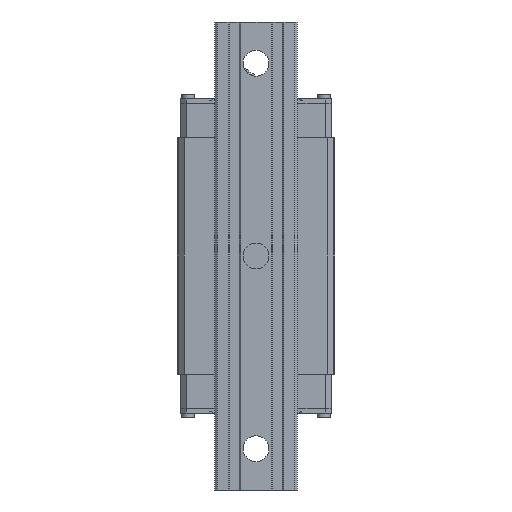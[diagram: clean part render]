
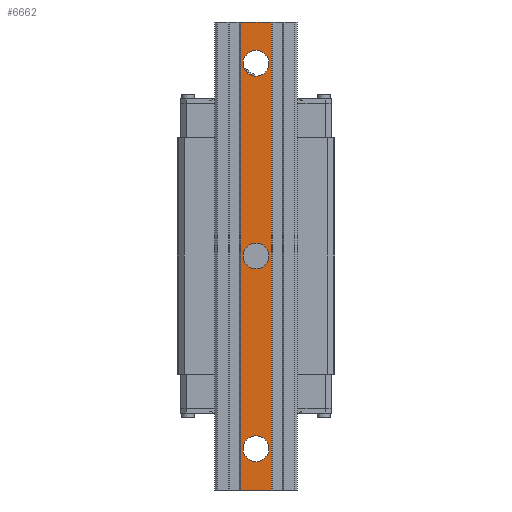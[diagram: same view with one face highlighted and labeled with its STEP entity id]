
A CAD part, front view. The second image highlights one B-rep face of the part: STEP entity #6662.
In plain terms, the highlighted planar face has unit normal (0, -1, 0).
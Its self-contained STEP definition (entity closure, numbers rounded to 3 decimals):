
#6227=FACE_BOUND('',#9031,.T.);
#6228=FACE_BOUND('',#9032,.T.);
#6229=FACE_BOUND('',#9033,.T.);
#6230=FACE_BOUND('',#9034,.T.);
#6662=ADVANCED_FACE('',(#6227,#6228,#6229,#6230),#7599,.T.);
#7599=PLANE('',#22539);
#9031=EDGE_LOOP('',(#10575,#10576,#10577,#10578));
#9032=EDGE_LOOP('',(#10579,#10580));
#9033=EDGE_LOOP('',(#10581,#10582));
#9034=EDGE_LOOP('',(#10583,#10584));
#10130=CIRCLE('',#22533,7.);
#10131=CIRCLE('',#22534,7.);
#10132=CIRCLE('',#22535,7.);
#10133=CIRCLE('',#22536,7.);
#10134=CIRCLE('',#22537,7.);
#10135=CIRCLE('',#22538,7.);
#10575=ORIENTED_EDGE('',*,*,#16885,.T.);
#10576=ORIENTED_EDGE('',*,*,#16886,.F.);
#10577=ORIENTED_EDGE('',*,*,#16887,.F.);
#10578=ORIENTED_EDGE('',*,*,#16823,.T.);
#10579=ORIENTED_EDGE('',*,*,#16888,.T.);
#10580=ORIENTED_EDGE('',*,*,#16889,.T.);
#10581=ORIENTED_EDGE('',*,*,#16890,.T.);
#10582=ORIENTED_EDGE('',*,*,#16891,.T.);
#10583=ORIENTED_EDGE('',*,*,#16892,.T.);
#10584=ORIENTED_EDGE('',*,*,#16893,.T.);
#15239=VERTEX_POINT('',#27716);
#15240=VERTEX_POINT('',#27718);
#15282=VERTEX_POINT('',#27840);
#15283=VERTEX_POINT('',#27844);
#15284=VERTEX_POINT('',#27847);
#15285=VERTEX_POINT('',#27848);
#15286=VERTEX_POINT('',#27851);
#15287=VERTEX_POINT('',#27852);
#15288=VERTEX_POINT('',#27855);
#15289=VERTEX_POINT('',#27856);
#16823=EDGE_CURVE('',#15240,#15239,#19199,.T.);
#16885=EDGE_CURVE('',#15239,#15282,#19246,.T.);
#16886=EDGE_CURVE('',#15283,#15282,#19247,.T.);
#16887=EDGE_CURVE('',#15240,#15283,#19248,.T.);
#16888=EDGE_CURVE('',#15284,#15285,#10130,.T.);
#16889=EDGE_CURVE('',#15285,#15284,#10131,.T.);
#16890=EDGE_CURVE('',#15286,#15287,#10132,.T.);
#16891=EDGE_CURVE('',#15287,#15286,#10133,.T.);
#16892=EDGE_CURVE('',#15288,#15289,#10134,.T.);
#16893=EDGE_CURVE('',#15289,#15288,#10135,.T.);
#19199=LINE('',#27717,#20804);
#19246=LINE('',#27841,#20851);
#19247=LINE('',#27843,#20852);
#19248=LINE('',#27845,#20853);
#20804=VECTOR('',#23680,1.);
#20851=VECTOR('',#23795,1.);
#20852=VECTOR('',#23798,1.);
#20853=VECTOR('',#23799,1.);
#22533=AXIS2_PLACEMENT_3D('',#27846,#23800,#23801);
#22534=AXIS2_PLACEMENT_3D('',#27849,#23802,#23803);
#22535=AXIS2_PLACEMENT_3D('',#27850,#23804,#23805);
#22536=AXIS2_PLACEMENT_3D('',#27853,#23806,#23807);
#22537=AXIS2_PLACEMENT_3D('',#27854,#23808,#23809);
#22538=AXIS2_PLACEMENT_3D('',#27857,#23810,#23811);
#22539=AXIS2_PLACEMENT_3D('',#27858,#23812,#23813);
#23680=DIRECTION('',(1.,0.,0.));
#23795=DIRECTION('',(0.,0.,1.));
#23798=DIRECTION('',(1.,0.,0.));
#23799=DIRECTION('',(0.,0.,1.));
#23800=DIRECTION('',(0.,1.,0.));
#23801=DIRECTION('',(1.,0.,0.));
#23802=DIRECTION('',(0.,1.,0.));
#23803=DIRECTION('',(-1.,0.,0.));
#23804=DIRECTION('',(0.,1.,0.));
#23805=DIRECTION('',(1.,0.,0.));
#23806=DIRECTION('',(0.,1.,0.));
#23807=DIRECTION('',(-1.,0.,0.));
#23808=DIRECTION('',(0.,1.,0.));
#23809=DIRECTION('',(1.,0.,0.));
#23810=DIRECTION('',(0.,1.,0.));
#23811=DIRECTION('',(-1.,0.,0.));
#23812=DIRECTION('',(0.,-1.,0.));
#23813=DIRECTION('',(1.,0.,0.));
#27716=CARTESIAN_POINT('',(8.25,-38.,-127.5));
#27717=CARTESIAN_POINT('',(-8.25,-38.,-127.5));
#27718=CARTESIAN_POINT('',(-8.25,-38.,-127.5));
#27840=CARTESIAN_POINT('',(8.25,-38.,127.5));
#27841=CARTESIAN_POINT('',(8.25,-38.,-127.5));
#27843=CARTESIAN_POINT('',(-8.25,-38.,127.5));
#27844=CARTESIAN_POINT('',(-8.25,-38.,127.5));
#27845=CARTESIAN_POINT('',(-8.25,-38.,-127.5));
#27846=CARTESIAN_POINT('',(0.,-38.,0.));
#27847=CARTESIAN_POINT('',(7.,-38.,0.));
#27848=CARTESIAN_POINT('',(-7.,-38.,0.));
#27849=CARTESIAN_POINT('',(0.,-38.,0.));
#27850=CARTESIAN_POINT('',(0.,-38.,105.));
#27851=CARTESIAN_POINT('',(7.,-38.,105.));
#27852=CARTESIAN_POINT('',(-7.,-38.,105.));
#27853=CARTESIAN_POINT('',(0.,-38.,105.));
#27854=CARTESIAN_POINT('',(0.,-38.,-105.));
#27855=CARTESIAN_POINT('',(7.,-38.,-105.));
#27856=CARTESIAN_POINT('',(-7.,-38.,-105.));
#27857=CARTESIAN_POINT('',(0.,-38.,-105.));
#27858=CARTESIAN_POINT('',(-8.25,-38.,-127.5));
